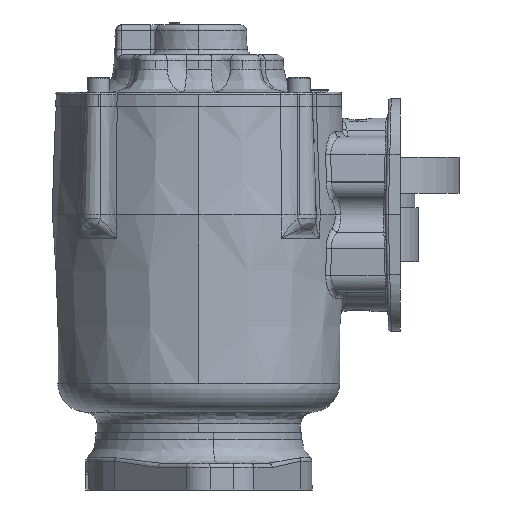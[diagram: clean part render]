
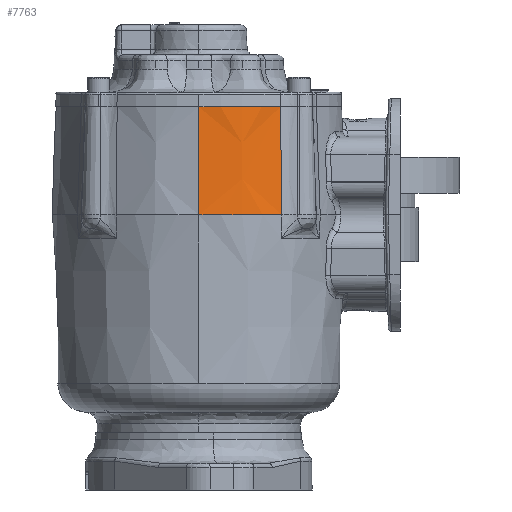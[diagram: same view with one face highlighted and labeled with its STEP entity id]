
A CAD part, left-side view. The second image highlights one B-rep face of the part: STEP entity #7763.
In plain terms, the highlighted conical face has half-angle 2 degrees and reference radius 78.232 mm.
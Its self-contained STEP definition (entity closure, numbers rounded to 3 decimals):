
#724 = CARTESIAN_POINT ( 'NONE',  ( -24.198, 47.375, 66.341 ) ) ;
#5498 = EDGE_CURVE ( 'NONE', #31157, #82954, #124067, .T. ) ;
#7763 = ADVANCED_FACE ( 'NONE', ( #75267 ), #97803, .T. ) ;
#7782 = CARTESIAN_POINT ( 'NONE',  ( -87.469, 3.679, 47.168 ) ) ;
#10422 = DIRECTION ( 'NONE',  ( -1., 0., 0. ) ) ;
#15946 = VERTEX_POINT ( 'NONE', #72962 ) ;
#18346 = EDGE_LOOP ( 'NONE', ( #44138, #82622, #69162, #75027 ) ) ;
#19902 = CARTESIAN_POINT ( 'NONE',  ( -100.421, 47.375, 66.341 ) ) ;
#23582 = AXIS2_PLACEMENT_3D ( 'NONE', #724, #68049, #10422 ) ;
#24890 = DIRECTION ( 'NONE',  ( -1., 0., 0. ) ) ;
#31157 = VERTEX_POINT ( 'NONE', #114089 ) ;
#43886 = CARTESIAN_POINT ( 'NONE',  ( -88.813, 3.271, 8.822 ) ) ;
#44138 = ORIENTED_EDGE ( 'NONE', *, *, #118319, .F. ) ;
#44943 = CARTESIAN_POINT ( 'NONE',  ( -24.198, 47.375, 8.822 ) ) ;
#53843 = CARTESIAN_POINT ( 'NONE',  ( -86.793, 3.879, 66.341 ) ) ;
#54628 = DIRECTION ( 'NONE',  ( -0.468, -0.884, 0. ) ) ;
#55153 = CARTESIAN_POINT ( 'NONE',  ( -24.198, 47.375, 8.822 ) ) ;
#55942 = CARTESIAN_POINT ( 'NONE',  ( -102.43, 47.375, 8.822 ) ) ;
#64493 = CARTESIAN_POINT ( 'NONE',  ( -88.142, 3.476, 27.995 ) ) ;
#68049 = DIRECTION ( 'NONE',  ( 0., 0., 1. ) ) ;
#68786 = AXIS2_PLACEMENT_3D ( 'NONE', #55153, #70486, #24890 ) ;
#69162 = ORIENTED_EDGE ( 'NONE', *, *, #101424, .F. ) ;
#70486 = DIRECTION ( 'NONE',  ( 0., 0., -1. ) ) ;
#72962 = CARTESIAN_POINT ( 'NONE',  ( -102.43, 47.375, 8.822 ) ) ;
#74274 = VECTOR ( 'NONE', #113564, 1000. ) ;
#75027 = ORIENTED_EDGE ( 'NONE', *, *, #5498, .F. ) ;
#75267 = FACE_OUTER_BOUND ( 'NONE', #18346, .T. ) ;
#82622 = ORIENTED_EDGE ( 'NONE', *, *, #89060, .T. ) ;
#82954 = VERTEX_POINT ( 'NONE', #117176 ) ;
#85860 = CIRCLE ( 'NONE', #23582, 76.223 ) ;
#89060 = EDGE_CURVE ( 'NONE', #96336, #15946, #99792, .T. ) ;
#96336 = VERTEX_POINT ( 'NONE', #19902 ) ;
#97803 = CONICAL_SURFACE ( 'NONE', #68786, 78.232, 0.035 ) ;
#99792 = LINE ( 'NONE', #55942, #74274 ) ;
#101424 = EDGE_CURVE ( 'NONE', #82954, #15946, #114211, .T. ) ;
#112259 = DIRECTION ( 'NONE',  ( 0., 0., -1. ) ) ;
#113564 = DIRECTION ( 'NONE',  ( -0.035, 0., -0.999 ) ) ;
#114089 = CARTESIAN_POINT ( 'NONE',  ( -86.793, 3.879, 66.341 ) ) ;
#114211 = CIRCLE ( 'NONE', #115473, 78.232 ) ;
#115473 = AXIS2_PLACEMENT_3D ( 'NONE', #44943, #112259, #54628 ) ;
#117176 = CARTESIAN_POINT ( 'NONE',  ( -88.813, 3.271, 8.822 ) ) ;
#118319 = EDGE_CURVE ( 'NONE', #96336, #31157, #85860, .T. ) ;
#124067 = B_SPLINE_CURVE_WITH_KNOTS ( 'NONE', 3,
 ( #53843, #7782, #64493, #43886 ),
 .UNSPECIFIED., .F., .F.,
 ( 4, 4 ),
 ( 0., 1. ),
 .UNSPECIFIED. ) ;
